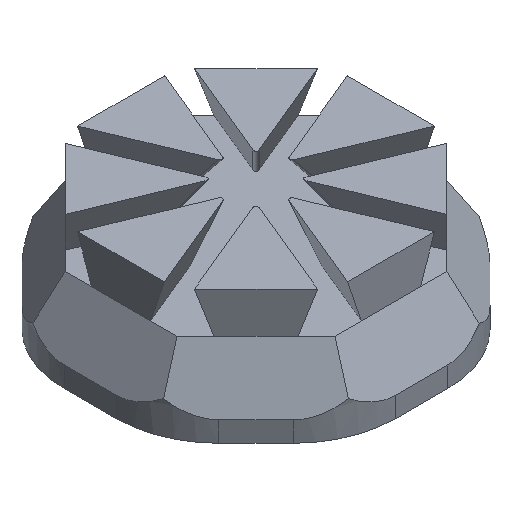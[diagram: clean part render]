
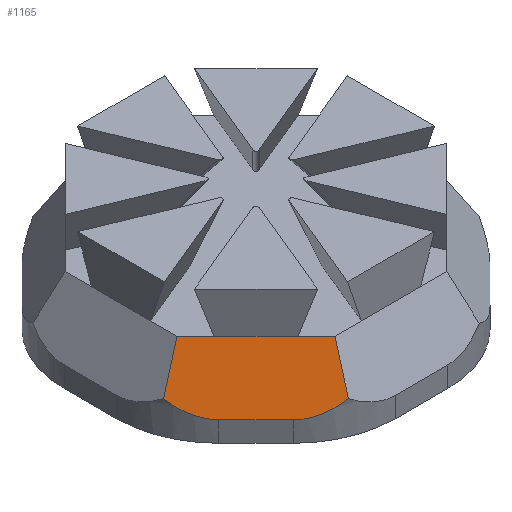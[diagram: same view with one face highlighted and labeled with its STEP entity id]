
A CAD part, isometric view. The second image highlights one B-rep face of the part: STEP entity #1165.
In plain terms, the highlighted planar face has unit normal (-0.606, -0.606, 0.514).
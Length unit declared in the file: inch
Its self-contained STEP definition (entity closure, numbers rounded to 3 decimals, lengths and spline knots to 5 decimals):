
#14=PLANE($,#1237);
#65=FACE_OUTER_BOUND($,#131,.T.);
#131=EDGE_LOOP($,(#801,#802,#803,#804,#805,#806,#807,#808));
#206=LINE($,#1703,#342);
#207=LINE($,#1707,#343);
#208=LINE($,#1709,#344);
#209=LINE($,#1711,#345);
#210=LINE($,#1713,#346);
#211=LINE($,#1714,#347);
#342=VECTOR($,#1353,0.51777);
#343=VECTOR($,#1356,0.44492);
#344=VECTOR($,#1357,0.25707);
#345=VECTOR($,#1358,0.58353);
#346=VECTOR($,#1359,0.25707);
#347=VECTOR($,#1360,0.44492);
#477=ELLIPSE($,#1236,1.94365,1.);
#478=ELLIPSE($,#1238,1.94365,1.);
#508=VERTEX_POINT($,#1691);
#512=VERTEX_POINT($,#1698);
#513=VERTEX_POINT($,#1702);
#514=VERTEX_POINT($,#1704);
#515=VERTEX_POINT($,#1706);
#516=VERTEX_POINT($,#1708);
#517=VERTEX_POINT($,#1710);
#518=VERTEX_POINT($,#1712);
#624=EDGE_CURVE($,#512,#508,#477,.T.);
#625=EDGE_CURVE($,#512,#513,#206,.T.);
#626=EDGE_CURVE($,#514,#513,#478,.T.);
#627=EDGE_CURVE($,#515,#514,#207,.T.);
#628=EDGE_CURVE($,#515,#516,#208,.T.);
#629=EDGE_CURVE($,#516,#517,#209,.T.);
#630=EDGE_CURVE($,#517,#518,#210,.T.);
#631=EDGE_CURVE($,#518,#508,#211,.T.);
#801=ORIENTED_EDGE($,*,*,#624,.F.);
#802=ORIENTED_EDGE($,*,*,#625,.T.);
#803=ORIENTED_EDGE($,*,*,#626,.F.);
#804=ORIENTED_EDGE($,*,*,#627,.F.);
#805=ORIENTED_EDGE($,*,*,#628,.T.);
#806=ORIENTED_EDGE($,*,*,#629,.T.);
#807=ORIENTED_EDGE($,*,*,#630,.T.);
#808=ORIENTED_EDGE($,*,*,#631,.T.);
#1165=ADVANCED_FACE($,(#65),#14,.T.);
#1236=AXIS2_PLACEMENT_3D($,#1700,#1349,#1350);
#1237=AXIS2_PLACEMENT_3D($,#1701,#1351,#1352);
#1238=AXIS2_PLACEMENT_3D($,#1705,#1354,#1355);
#1349=DIRECTION('center_axis',(0.606,0.606,-0.514));
#1350=DIRECTION('ref_axis',(-0.364,-0.364,-0.857));
#1351=DIRECTION('center_axis',(-0.606,-0.606,0.514));
#1352=DIRECTION('ref_axis',(0.647,0.,0.762));
#1353=DIRECTION($,(0.707,-0.707,0.));
#1354=DIRECTION('center_axis',(0.606,0.606,-0.514));
#1355=DIRECTION('ref_axis',(-0.364,-0.364,-0.857));
#1356=DIRECTION($,(-0.208,-0.503,-0.839));
#1357=DIRECTION($,(-0.707,0.707,0.));
#1358=DIRECTION($,(-0.707,0.707,0.));
#1359=DIRECTION($,(-0.707,0.707,0.));
#1360=DIRECTION($,(-0.503,-0.208,-0.839));
#1691=CARTESIAN_POINT('',(-1.54888,-0.64157,0.32687));
#1698=CARTESIAN_POINT('',(-1.33211,-0.96599,0.2));
#1700=CARTESIAN_POINT('Origin',(-0.625,-0.25888,1.86667));
#1701=CARTESIAN_POINT('Origin',(-0.54883,-1.325,0.7));
#1702=CARTESIAN_POINT('',(-0.96599,-1.33211,0.2));
#1703=CARTESIAN_POINT($,(-0.6731,-1.625,0.2));
#1704=CARTESIAN_POINT('',(-0.64157,-1.54888,0.32687));
#1705=CARTESIAN_POINT('Origin',(-0.25888,-0.625,1.86667));
#1706=CARTESIAN_POINT('',(-0.54883,-1.325,0.7));
#1707=CARTESIAN_POINT($,(-0.54883,-1.325,0.7));
#1708=CARTESIAN_POINT('',(-0.73061,-1.14323,0.7));
#1709=CARTESIAN_POINT($,(-0.54883,-1.325,0.7));
#1710=CARTESIAN_POINT('',(-1.14323,-0.73061,0.7));
#1711=CARTESIAN_POINT($,(-0.54883,-1.325,0.7));
#1712=CARTESIAN_POINT('',(-1.325,-0.54883,0.7));
#1713=CARTESIAN_POINT($,(-0.54883,-1.325,0.7));
#1714=CARTESIAN_POINT($,(-1.325,-0.54883,0.7));
